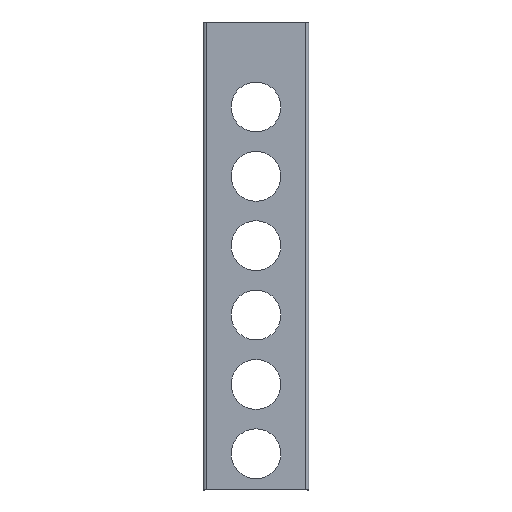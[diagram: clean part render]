
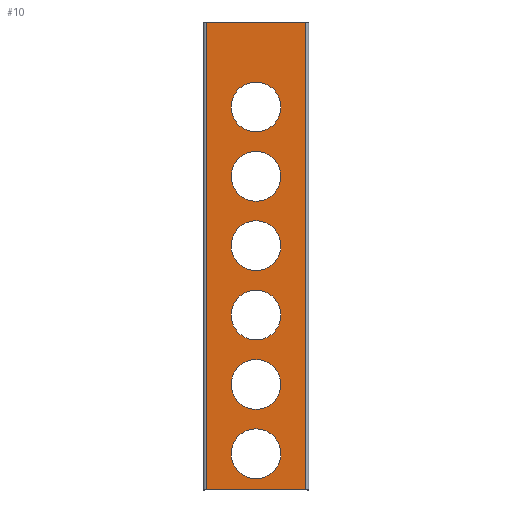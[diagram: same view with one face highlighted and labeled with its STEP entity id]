
A CAD part, top view. The second image highlights one B-rep face of the part: STEP entity #10.
In plain terms, the highlighted planar face has unit normal (0, 0, 1).
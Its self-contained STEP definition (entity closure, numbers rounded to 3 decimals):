
#10 = ADVANCED_FACE ( 'NONE', ( #85, #153, #231, #229, #151, #155, #136 ), #783, .T. ) ;
#60 = CIRCLE ( 'NONE', #434, 25.5 ) ;
#73 = ORIENTED_EDGE ( 'NONE', *, *, #482, .T. ) ;
#74 = VECTOR ( 'NONE', #615, 1000. ) ;
#76 = LINE ( 'NONE', #572, #74 ) ;
#78 = ORIENTED_EDGE ( 'NONE', *, *, #476, .T. ) ;
#85 = FACE_OUTER_BOUND ( 'NONE', #86, .T. ) ;
#86 = EDGE_LOOP ( 'NONE', ( #369, #381, #332, #245 ) ) ;
#109 = ORIENTED_EDGE ( 'NONE', *, *, #468, .T. ) ;
#127 = LINE ( 'NONE', #811, #256 ) ;
#134 = CIRCLE ( 'NONE', #533, 25.5 ) ;
#136 = FACE_BOUND ( 'NONE', #276, .T. ) ;
#146 = EDGE_LOOP ( 'NONE', ( #190, #361 ) ) ;
#151 = FACE_BOUND ( 'NONE', #146, .T. ) ;
#153 = FACE_BOUND ( 'NONE', #278, .T. ) ;
#155 = FACE_BOUND ( 'NONE', #236, .T. ) ;
#160 = CIRCLE ( 'NONE', #410, 25.5 ) ;
#175 = VECTOR ( 'NONE', #779, 1000. ) ;
#187 = VECTOR ( 'NONE', #596, 1000. ) ;
#188 = LINE ( 'NONE', #570, #187 ) ;
#190 = ORIENTED_EDGE ( 'NONE', *, *, #530, .T. ) ;
#196 = CIRCLE ( 'NONE', #414, 25.5 ) ;
#203 = EDGE_LOOP ( 'NONE', ( #291, #234 ) ) ;
#222 = ORIENTED_EDGE ( 'NONE', *, *, #477, .T. ) ;
#225 = CIRCLE ( 'NONE', #415, 25.5 ) ;
#229 = FACE_BOUND ( 'NONE', #251, .T. ) ;
#231 = FACE_BOUND ( 'NONE', #203, .T. ) ;
#234 = ORIENTED_EDGE ( 'NONE', *, *, #470, .T. ) ;
#236 = EDGE_LOOP ( 'NONE', ( #395, #331 ) ) ;
#238 = LINE ( 'NONE', #784, #175 ) ;
#240 = ORIENTED_EDGE ( 'NONE', *, *, #473, .T. ) ;
#245 = ORIENTED_EDGE ( 'NONE', *, *, #472, .F. ) ;
#251 = EDGE_LOOP ( 'NONE', ( #222, #240 ) ) ;
#256 = VECTOR ( 'NONE', #800, 1000. ) ;
#265 = ORIENTED_EDGE ( 'NONE', *, *, #478, .T. ) ;
#274 = CIRCLE ( 'NONE', #413, 25.5 ) ;
#276 = EDGE_LOOP ( 'NONE', ( #78, #73 ) ) ;
#278 = EDGE_LOOP ( 'NONE', ( #265, #109 ) ) ;
#291 = ORIENTED_EDGE ( 'NONE', *, *, #463, .T. ) ;
#331 = ORIENTED_EDGE ( 'NONE', *, *, #480, .T. ) ;
#332 = ORIENTED_EDGE ( 'NONE', *, *, #465, .T. ) ;
#346 = CIRCLE ( 'NONE', #404, 25.5 ) ;
#357 = CIRCLE ( 'NONE', #407, 25.5 ) ;
#361 = ORIENTED_EDGE ( 'NONE', *, *, #474, .T. ) ;
#369 = ORIENTED_EDGE ( 'NONE', *, *, #513, .T. ) ;
#374 = CIRCLE ( 'NONE', #406, 25.5 ) ;
#381 = ORIENTED_EDGE ( 'NONE', *, *, #527, .T. ) ;
#382 = CIRCLE ( 'NONE', #408, 25.5 ) ;
#386 = CIRCLE ( 'NONE', #409, 25.5 ) ;
#392 = CIRCLE ( 'NONE', #411, 25.5 ) ;
#395 = ORIENTED_EDGE ( 'NONE', *, *, #469, .T. ) ;
#404 = AXIS2_PLACEMENT_3D ( 'NONE', #760, #700, #668 ) ;
#406 = AXIS2_PLACEMENT_3D ( 'NONE', #778, #901, #643 ) ;
#407 = AXIS2_PLACEMENT_3D ( 'NONE', #640, #788, #817 ) ;
#408 = AXIS2_PLACEMENT_3D ( 'NONE', #903, #826, #637 ) ;
#409 = AXIS2_PLACEMENT_3D ( 'NONE', #646, #653, #835 ) ;
#410 = AXIS2_PLACEMENT_3D ( 'NONE', #780, #781, #787 ) ;
#411 = AXIS2_PLACEMENT_3D ( 'NONE', #816, #814, #785 ) ;
#413 = AXIS2_PLACEMENT_3D ( 'NONE', #913, #906, #910 ) ;
#414 = AXIS2_PLACEMENT_3D ( 'NONE', #775, #911, #821 ) ;
#415 = AXIS2_PLACEMENT_3D ( 'NONE', #917, #651, #647 ) ;
#434 = AXIS2_PLACEMENT_3D ( 'NONE', #578, #595, #576 ) ;
#451 = AXIS2_PLACEMENT_3D ( 'NONE', #743, #791, #837 ) ;
#463 = EDGE_CURVE ( 'NONE', #736, #735, #134, .T. ) ;
#465 = EDGE_CURVE ( 'NONE', #681, #823, #127, .T. ) ;
#468 = EDGE_CURVE ( 'NONE', #742, #741, #196, .T. ) ;
#469 = EDGE_CURVE ( 'NONE', #692, #751, #225, .T. ) ;
#470 = EDGE_CURVE ( 'NONE', #735, #736, #274, .T. ) ;
#472 = EDGE_CURVE ( 'NONE', #618, #823, #238, .T. ) ;
#473 = EDGE_CURVE ( 'NONE', #824, #746, #160, .T. ) ;
#474 = EDGE_CURVE ( 'NONE', #638, #819, #392, .T. ) ;
#476 = EDGE_CURVE ( 'NONE', #796, #822, #386, .T. ) ;
#477 = EDGE_CURVE ( 'NONE', #746, #824, #382, .T. ) ;
#478 = EDGE_CURVE ( 'NONE', #741, #742, #374, .T. ) ;
#480 = EDGE_CURVE ( 'NONE', #751, #692, #357, .T. ) ;
#482 = EDGE_CURVE ( 'NONE', #822, #796, #346, .T. ) ;
#513 = EDGE_CURVE ( 'NONE', #618, #793, #188, .T. ) ;
#527 = EDGE_CURVE ( 'NONE', #793, #681, #76, .T. ) ;
#530 = EDGE_CURVE ( 'NONE', #819, #638, #60, .T. ) ;
#533 = AXIS2_PLACEMENT_3D ( 'NONE', #807, #810, #809 ) ;
#539 = CARTESIAN_POINT ( 'NONE',  ( 25.5, 392., 40. ) ) ;
#542 = CARTESIAN_POINT ( 'NONE',  ( -25.5, 37., 40. ) ) ;
#543 = CARTESIAN_POINT ( 'NONE',  ( -25.5, 108., 40. ) ) ;
#545 = CARTESIAN_POINT ( 'NONE',  ( -25.5, 321., 40. ) ) ;
#570 = CARTESIAN_POINT ( 'NONE',  ( 51., 0., 40. ) ) ;
#572 = CARTESIAN_POINT ( 'NONE',  ( 51., 479., 40. ) ) ;
#576 = DIRECTION ( 'NONE',  ( 1., 0., 0. ) ) ;
#578 = CARTESIAN_POINT ( 'NONE',  ( 0., 37., 40. ) ) ;
#581 = CARTESIAN_POINT ( 'NONE',  ( -51., 0., 40. ) ) ;
#583 = CARTESIAN_POINT ( 'NONE',  ( -25.5, 179., 40. ) ) ;
#591 = CARTESIAN_POINT ( 'NONE',  ( -51., 479., 40. ) ) ;
#595 = DIRECTION ( 'NONE',  ( 0., 0., -1. ) ) ;
#596 = DIRECTION ( 'NONE',  ( 1., 0., 0. ) ) ;
#598 = CARTESIAN_POINT ( 'NONE',  ( 25.5, 179., 40. ) ) ;
#602 = CARTESIAN_POINT ( 'NONE',  ( 51., 479., 40. ) ) ;
#605 = CARTESIAN_POINT ( 'NONE',  ( 25.5, 250., 40. ) ) ;
#615 = DIRECTION ( 'NONE',  ( 0., 1., 0. ) ) ;
#618 = VERTEX_POINT ( 'NONE', #581 ) ;
#624 = CARTESIAN_POINT ( 'NONE',  ( 25.5, 321., 40. ) ) ;
#627 = CARTESIAN_POINT ( 'NONE',  ( 25.5, 37., 40. ) ) ;
#637 = DIRECTION ( 'NONE',  ( 1., 0., 0. ) ) ;
#638 = VERTEX_POINT ( 'NONE', #542 ) ;
#640 = CARTESIAN_POINT ( 'NONE',  ( 0., 179., 40. ) ) ;
#643 = DIRECTION ( 'NONE',  ( 1., 0., 0. ) ) ;
#646 = CARTESIAN_POINT ( 'NONE',  ( 0., 321., 40. ) ) ;
#647 = DIRECTION ( 'NONE',  ( 1., 0., 0. ) ) ;
#651 = DIRECTION ( 'NONE',  ( 0., 0., -1. ) ) ;
#653 = DIRECTION ( 'NONE',  ( 0., 0., -1. ) ) ;
#654 = CARTESIAN_POINT ( 'NONE',  ( -25.5, 392., 40. ) ) ;
#668 = DIRECTION ( 'NONE',  ( 1., 0., 0. ) ) ;
#672 = CARTESIAN_POINT ( 'NONE',  ( -25.5, 250., 40. ) ) ;
#681 = VERTEX_POINT ( 'NONE', #602 ) ;
#692 = VERTEX_POINT ( 'NONE', #598 ) ;
#700 = DIRECTION ( 'NONE',  ( 0., 0., -1. ) ) ;
#735 = VERTEX_POINT ( 'NONE', #672 ) ;
#736 = VERTEX_POINT ( 'NONE', #605 ) ;
#741 = VERTEX_POINT ( 'NONE', #539 ) ;
#742 = VERTEX_POINT ( 'NONE', #654 ) ;
#743 = CARTESIAN_POINT ( 'NONE',  ( 2., 239.5, 40. ) ) ;
#746 = VERTEX_POINT ( 'NONE', #912 ) ;
#751 = VERTEX_POINT ( 'NONE', #583 ) ;
#760 = CARTESIAN_POINT ( 'NONE',  ( 0., 321., 40. ) ) ;
#771 = CARTESIAN_POINT ( 'NONE',  ( 51., 0., 40. ) ) ;
#775 = CARTESIAN_POINT ( 'NONE',  ( 0., 392., 40. ) ) ;
#778 = CARTESIAN_POINT ( 'NONE',  ( 0., 392., 40. ) ) ;
#779 = DIRECTION ( 'NONE',  ( 0., 1., 0. ) ) ;
#780 = CARTESIAN_POINT ( 'NONE',  ( 0., 108., 40. ) ) ;
#781 = DIRECTION ( 'NONE',  ( 0., 0., -1. ) ) ;
#783 = PLANE ( 'NONE',  #451 ) ;
#784 = CARTESIAN_POINT ( 'NONE',  ( -51., 479., 40. ) ) ;
#785 = DIRECTION ( 'NONE',  ( 1., 0., 0. ) ) ;
#787 = DIRECTION ( 'NONE',  ( 1., 0., 0. ) ) ;
#788 = DIRECTION ( 'NONE',  ( 0., 0., -1. ) ) ;
#791 = DIRECTION ( 'NONE',  ( 0., 0., 1. ) ) ;
#793 = VERTEX_POINT ( 'NONE', #771 ) ;
#796 = VERTEX_POINT ( 'NONE', #624 ) ;
#800 = DIRECTION ( 'NONE',  ( -1., 0., 0. ) ) ;
#807 = CARTESIAN_POINT ( 'NONE',  ( 0., 250., 40. ) ) ;
#809 = DIRECTION ( 'NONE',  ( 1., 0., 0. ) ) ;
#810 = DIRECTION ( 'NONE',  ( 0., 0., -1. ) ) ;
#811 = CARTESIAN_POINT ( 'NONE',  ( -43., 479., 40. ) ) ;
#814 = DIRECTION ( 'NONE',  ( 0., 0., -1. ) ) ;
#816 = CARTESIAN_POINT ( 'NONE',  ( 0., 37., 40. ) ) ;
#817 = DIRECTION ( 'NONE',  ( 1., 0., 0. ) ) ;
#819 = VERTEX_POINT ( 'NONE', #627 ) ;
#821 = DIRECTION ( 'NONE',  ( 1., 0., 0. ) ) ;
#822 = VERTEX_POINT ( 'NONE', #545 ) ;
#823 = VERTEX_POINT ( 'NONE', #591 ) ;
#824 = VERTEX_POINT ( 'NONE', #543 ) ;
#826 = DIRECTION ( 'NONE',  ( 0., 0., -1. ) ) ;
#835 = DIRECTION ( 'NONE',  ( 1., 0., 0. ) ) ;
#837 = DIRECTION ( 'NONE',  ( 1., 0., 0. ) ) ;
#901 = DIRECTION ( 'NONE',  ( 0., 0., -1. ) ) ;
#903 = CARTESIAN_POINT ( 'NONE',  ( 0., 108., 40. ) ) ;
#906 = DIRECTION ( 'NONE',  ( 0., 0., -1. ) ) ;
#910 = DIRECTION ( 'NONE',  ( 1., 0., 0. ) ) ;
#911 = DIRECTION ( 'NONE',  ( 0., 0., -1. ) ) ;
#912 = CARTESIAN_POINT ( 'NONE',  ( 25.5, 108., 40. ) ) ;
#913 = CARTESIAN_POINT ( 'NONE',  ( 0., 250., 40. ) ) ;
#917 = CARTESIAN_POINT ( 'NONE',  ( 0., 179., 40. ) ) ;
